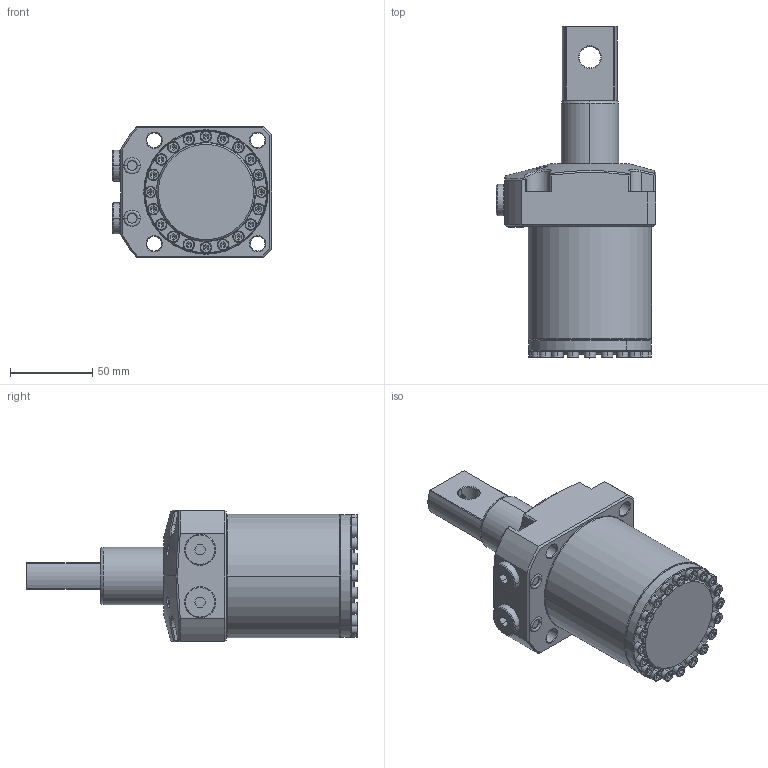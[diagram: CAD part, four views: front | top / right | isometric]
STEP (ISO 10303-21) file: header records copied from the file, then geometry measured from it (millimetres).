
FILE_DESCRIPTION((''),'2;1');
FILE_NAME('SIMP_GENERIC_SWING_CYD_75_PIN_ASM','2023-04-16T14:38:54',('Design 2'),(''),'CREO PARAMETRIC BY PTC INC, 2020053','CREO PARAMETRIC BY PTC INC, 2020053','');
FILE_SCHEMA(('CONFIG_CONTROL_DESIGN'));
Length unit declared in the file: millimetre
Products named in the file (13): BODY___; BODY_TOP_FLG____ASM; PIN_PISTON_; PISTON_ASM____ASM; SWINGER_ARM___; SWINGER_ARM_ASM____ASM; 1_____; 2_____; HALDER_SEALING-PLUG-228800_SS__ASM; STATIC-O-RING-10X2SS_; ISHCS04X10_; G-1-4_CLOSE_PLUG_; SIMP_GENERIC_SWING_CYD_75_PIN_ASM
Assembly tree (34 placements, depth 3):
  SIMP_GENERIC_SWING_CYD_75_PIN_ASM
    BODY_TOP_FLG____ASM
      BODY___
    PISTON_ASM____ASM
      PIN_PISTON_
    SWINGER_ARM_ASM____ASM
      SWINGER_ARM___
    HALDER_SEALING-PLUG-228800_SS__ASM  x2
      1_____
      2_____
    STATIC-O-RING-10X2SS_  x2
    ISHCS04X10_  x20
    G-1-4_CLOSE_PLUG_  x2
Bounding box: 97 x 202.15 x 80 mm (x, y, z)
Volume: 607674.7 mm3; surface area: 97357.3 mm2
Topology: 31 solids, 31 shells, 1227 faces, 2681 edges, 1532 vertices
Faces by surface type: plane 401, cylinder 373, cone 356, torus 52, bspline 39, sphere 6
Entity records: 19777 total; most frequent: CARTESIAN_POINT 6960, DIRECTION 2711, ORIENTED_EDGE 2498, EDGE_CURVE 1249, AXIS2_PLACEMENT_3D 1072, VERTEX_POINT 740, EDGE_LOOP 645, VECTOR 567
